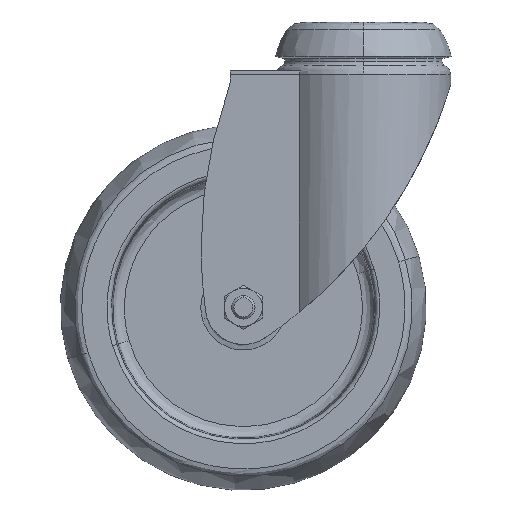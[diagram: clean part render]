
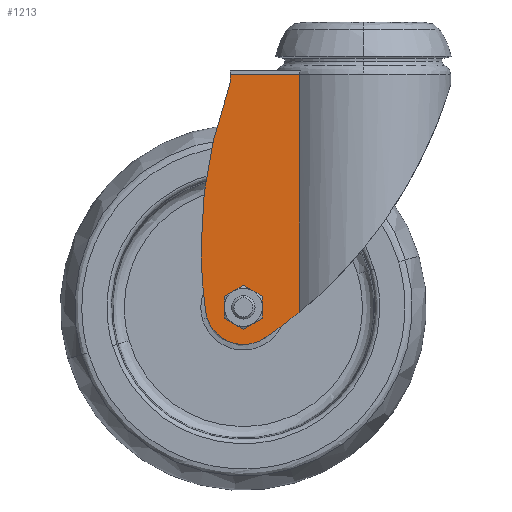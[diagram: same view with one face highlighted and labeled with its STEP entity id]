
A CAD part, top view. The second image highlights one B-rep face of the part: STEP entity #1213.
In plain terms, the highlighted planar face has unit normal (0, 0, 1).
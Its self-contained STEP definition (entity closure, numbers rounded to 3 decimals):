
#23 = LINE ( 'NONE', #3267, #7193 ) ;
#39 = DIRECTION ( 'NONE',  ( 0., 0., -1. ) ) ;
#132 = ORIENTED_EDGE ( 'NONE', *, *, #7077, .T. ) ;
#198 = AXIS2_PLACEMENT_3D ( 'NONE', #4670, #2241, #4129 ) ;
#213 = CIRCLE ( 'NONE', #4378, 160.514 ) ;
#235 = LINE ( 'NONE', #3393, #4162 ) ;
#315 = DIRECTION ( 'NONE',  ( -1., 0., 0. ) ) ;
#316 = AXIS2_PLACEMENT_3D ( 'NONE', #5965, #7727, #2627 ) ;
#347 = DIRECTION ( 'NONE',  ( 1., 0., 0. ) ) ;
#388 = ORIENTED_EDGE ( 'NONE', *, *, #8002, .T. ) ;
#432 = CARTESIAN_POINT ( 'NONE',  ( -34.714, 34.225, 25.055 ) ) ;
#492 = CIRCLE ( 'NONE', #2907, 6.5 ) ;
#646 = AXIS2_PLACEMENT_3D ( 'NONE', #5057, #2593, #5100 ) ;
#660 = CIRCLE ( 'NONE', #1466, 6.5 ) ;
#810 = AXIS2_PLACEMENT_3D ( 'NONE', #5782, #39, #2608 ) ;
#904 = DIRECTION ( 'NONE',  ( 0., -1., 0. ) ) ;
#1097 = CARTESIAN_POINT ( 'NONE',  ( -44.644, -24.523, 25.055 ) ) ;
#1111 = CARTESIAN_POINT ( 'NONE',  ( -30.214, -45.275, 25.055 ) ) ;
#1132 = CARTESIAN_POINT ( 'NONE',  ( -30.214, -45.275, 25.055 ) ) ;
#1213 = ADVANCED_FACE ( 'NONE', ( #5543, #8110 ), #2377, .T. ) ;
#1235 = ORIENTED_EDGE ( 'NONE', *, *, #7171, .T. ) ;
#1321 = ORIENTED_EDGE ( 'NONE', *, *, #7373, .T. ) ;
#1360 = ORIENTED_EDGE ( 'NONE', *, *, #2386, .T. ) ;
#1434 = DIRECTION ( 'NONE',  ( 0., 0., -1. ) ) ;
#1444 = CARTESIAN_POINT ( 'NONE',  ( -112.467, 76.793, 25.055 ) ) ;
#1466 = AXIS2_PLACEMENT_3D ( 'NONE', #2789, #6090, #347 ) ;
#1525 = CIRCLE ( 'NONE', #316, 6.5 ) ;
#1571 = VERTEX_POINT ( 'NONE', #5478 ) ;
#1608 = ORIENTED_EDGE ( 'NONE', *, *, #8293, .T. ) ;
#1672 = CARTESIAN_POINT ( 'NONE',  ( -43.088, -46.784, 25.055 ) ) ;
#1885 = DIRECTION ( 'NONE',  ( 0., 0., -1. ) ) ;
#1924 = DIRECTION ( 'NONE',  ( 0., 0., 1. ) ) ;
#1925 = DIRECTION ( 'NONE',  ( -1., 0., 0. ) ) ;
#2126 = CIRCLE ( 'NONE', #646, 159.993 ) ;
#2241 = DIRECTION ( 'NONE',  ( 0., 0., -1. ) ) ;
#2377 = PLANE ( 'NONE',  #3948 ) ;
#2386 = EDGE_CURVE ( 'NONE', #4165, #4962, #3273, .T. ) ;
#2450 = EDGE_CURVE ( 'NONE', #3416, #8020, #1525, .T. ) ;
#2466 = LINE ( 'NONE', #3805, #6660 ) ;
#2541 = CIRCLE ( 'NONE', #3615, 159.946 ) ;
#2591 = VERTEX_POINT ( 'NONE', #432 ) ;
#2593 = DIRECTION ( 'NONE',  ( 0., 0., 1. ) ) ;
#2603 = ORIENTED_EDGE ( 'NONE', *, *, #7571, .F. ) ;
#2608 = DIRECTION ( 'NONE',  ( 1., 0., 0. ) ) ;
#2627 = DIRECTION ( 'NONE',  ( 0., -1., 0. ) ) ;
#2660 = VERTEX_POINT ( 'NONE', #3545 ) ;
#2789 = CARTESIAN_POINT ( 'NONE',  ( -30.214, -45.275, 25.055 ) ) ;
#2892 = EDGE_CURVE ( 'NONE', #6187, #3416, #6707, .T. ) ;
#2907 = AXIS2_PLACEMENT_3D ( 'NONE', #1132, #3577, #6835 ) ;
#3023 = ORIENTED_EDGE ( 'NONE', *, *, #2892, .T. ) ;
#3034 = CIRCLE ( 'NONE', #198, 6.5 ) ;
#3058 = DIRECTION ( 'NONE',  ( 0., 0., 1. ) ) ;
#3084 = VERTEX_POINT ( 'NONE', #5893 ) ;
#3184 = DIRECTION ( 'NONE',  ( 0., 0., 1. ) ) ;
#3267 = CARTESIAN_POINT ( 'NONE',  ( -11.111, -107.775, 25.055 ) ) ;
#3273 = CIRCLE ( 'NONE', #4736, 13. ) ;
#3393 = CARTESIAN_POINT ( 'NONE',  ( -34.714, 39.225, 25.055 ) ) ;
#3399 = EDGE_CURVE ( 'NONE', #2591, #4924, #235, .T. ) ;
#3416 = VERTEX_POINT ( 'NONE', #7188 ) ;
#3545 = CARTESIAN_POINT ( 'NONE',  ( -11.111, -46.939, 25.055 ) ) ;
#3577 = DIRECTION ( 'NONE',  ( 0., 0., -1. ) ) ;
#3615 = AXIS2_PLACEMENT_3D ( 'NONE', #1444, #1924, #6351 ) ;
#3624 = VERTEX_POINT ( 'NONE', #5074 ) ;
#3678 = DIRECTION ( 'NONE',  ( 1., 0., 0. ) ) ;
#3708 = CIRCLE ( 'NONE', #6646, 159.993 ) ;
#3805 = CARTESIAN_POINT ( 'NONE',  ( 10.786, 34.225, 25.055 ) ) ;
#3876 = ORIENTED_EDGE ( 'NONE', *, *, #2450, .T. ) ;
#3948 = AXIS2_PLACEMENT_3D ( 'NONE', #4348, #4926, #3678 ) ;
#3951 = CIRCLE ( 'NONE', #6362, 6.5 ) ;
#4129 = DIRECTION ( 'NONE',  ( 1., 0., 0. ) ) ;
#4162 = VECTOR ( 'NONE', #904, 1000. ) ;
#4165 = VERTEX_POINT ( 'NONE', #1672 ) ;
#4199 = ORIENTED_EDGE ( 'NONE', *, *, #3399, .T. ) ;
#4348 = CARTESIAN_POINT ( 'NONE',  ( -11.111, -107.775, 25.055 ) ) ;
#4358 = EDGE_CURVE ( 'NONE', #2591, #8265, #2466, .T. ) ;
#4378 = AXIS2_PLACEMENT_3D ( 'NONE', #7796, #1434, #5399 ) ;
#4670 = CARTESIAN_POINT ( 'NONE',  ( -30.214, -45.275, 25.055 ) ) ;
#4677 = EDGE_LOOP ( 'NONE', ( #5081, #5833, #4199, #132, #388, #6167, #1360, #1235, #2603 ) ) ;
#4736 = AXIS2_PLACEMENT_3D ( 'NONE', #7646, #3058, #1925 ) ;
#4924 = VERTEX_POINT ( 'NONE', #7537 ) ;
#4926 = DIRECTION ( 'NONE',  ( 0., 0., 1. ) ) ;
#4962 = VERTEX_POINT ( 'NONE', #6868 ) ;
#5057 = CARTESIAN_POINT ( 'NONE',  ( 115.349, -24.523, 25.055 ) ) ;
#5074 = CARTESIAN_POINT ( 'NONE',  ( -23.714, -45.275, 25.055 ) ) ;
#5081 = ORIENTED_EDGE ( 'NONE', *, *, #5166, .F. ) ;
#5100 = DIRECTION ( 'NONE',  ( -1., 0., 0. ) ) ;
#5166 = EDGE_CURVE ( 'NONE', #8265, #2660, #23, .T. ) ;
#5246 = CARTESIAN_POINT ( 'NONE',  ( -26.964, -39.646, 25.055 ) ) ;
#5399 = DIRECTION ( 'NONE',  ( -1., 0., 0. ) ) ;
#5424 = CARTESIAN_POINT ( 'NONE',  ( -44.707, 32.724, 25.055 ) ) ;
#5478 = CARTESIAN_POINT ( 'NONE',  ( -13.983, -49.237, 25.055 ) ) ;
#5543 = FACE_OUTER_BOUND ( 'NONE', #4677, .T. ) ;
#5732 = CIRCLE ( 'NONE', #7337, 9.993 ) ;
#5737 = CARTESIAN_POINT ( 'NONE',  ( -26.964, -50.905, 25.055 ) ) ;
#5782 = CARTESIAN_POINT ( 'NONE',  ( -30.214, -45.275, 25.055 ) ) ;
#5833 = ORIENTED_EDGE ( 'NONE', *, *, #4358, .F. ) ;
#5893 = CARTESIAN_POINT ( 'NONE',  ( -35.298, 29.357, 25.055 ) ) ;
#5965 = CARTESIAN_POINT ( 'NONE',  ( -30.214, -45.275, 25.055 ) ) ;
#6021 = ORIENTED_EDGE ( 'NONE', *, *, #7728, .T. ) ;
#6023 = DIRECTION ( 'NONE',  ( 0., 0., -1. ) ) ;
#6090 = DIRECTION ( 'NONE',  ( 0., 0., -1. ) ) ;
#6167 = ORIENTED_EDGE ( 'NONE', *, *, #6205, .T. ) ;
#6187 = VERTEX_POINT ( 'NONE', #8038 ) ;
#6205 = EDGE_CURVE ( 'NONE', #7390, #4165, #2126, .T. ) ;
#6271 = CARTESIAN_POINT ( 'NONE',  ( -33.464, -39.646, 25.055 ) ) ;
#6351 = DIRECTION ( 'NONE',  ( -1., 0., 0. ) ) ;
#6362 = AXIS2_PLACEMENT_3D ( 'NONE', #1111, #1885, #7648 ) ;
#6646 = AXIS2_PLACEMENT_3D ( 'NONE', #7481, #3184, #6856 ) ;
#6660 = VECTOR ( 'NONE', #8198, 1000. ) ;
#6707 = CIRCLE ( 'NONE', #810, 6.5 ) ;
#6835 = DIRECTION ( 'NONE',  ( 0., -1., 0. ) ) ;
#6856 = DIRECTION ( 'NONE',  ( -1., 0., 0. ) ) ;
#6868 = CARTESIAN_POINT ( 'NONE',  ( -22.938, -55.748, 25.055 ) ) ;
#6900 = ORIENTED_EDGE ( 'NONE', *, *, #8097, .T. ) ;
#7077 = EDGE_CURVE ( 'NONE', #4924, #3084, #5732, .T. ) ;
#7162 = VERTEX_POINT ( 'NONE', #5246 ) ;
#7171 = EDGE_CURVE ( 'NONE', #4962, #1571, #2541, .T. ) ;
#7188 = CARTESIAN_POINT ( 'NONE',  ( -36.714, -45.275, 25.055 ) ) ;
#7193 = VECTOR ( 'NONE', #7733, 1000. ) ;
#7337 = AXIS2_PLACEMENT_3D ( 'NONE', #5424, #6023, #315 ) ;
#7373 = EDGE_CURVE ( 'NONE', #8020, #7162, #660, .T. ) ;
#7383 = CARTESIAN_POINT ( 'NONE',  ( -11.111, 34.225, 25.055 ) ) ;
#7390 = VERTEX_POINT ( 'NONE', #1097 ) ;
#7481 = CARTESIAN_POINT ( 'NONE',  ( 115.349, -24.523, 25.055 ) ) ;
#7537 = CARTESIAN_POINT ( 'NONE',  ( -34.714, 32.725, 25.055 ) ) ;
#7571 = EDGE_CURVE ( 'NONE', #2660, #1571, #213, .T. ) ;
#7646 = CARTESIAN_POINT ( 'NONE',  ( -30.214, -44.975, 25.055 ) ) ;
#7648 = DIRECTION ( 'NONE',  ( 1., 0., 0. ) ) ;
#7727 = DIRECTION ( 'NONE',  ( 0., 0., -1. ) ) ;
#7728 = EDGE_CURVE ( 'NONE', #7162, #3624, #492, .T. ) ;
#7733 = DIRECTION ( 'NONE',  ( 0., -1., 0. ) ) ;
#7796 = CARTESIAN_POINT ( 'NONE',  ( -112.822, 77.237, 25.055 ) ) ;
#7936 = VERTEX_POINT ( 'NONE', #5737 ) ;
#8002 = EDGE_CURVE ( 'NONE', #3084, #7390, #3708, .T. ) ;
#8020 = VERTEX_POINT ( 'NONE', #6271 ) ;
#8038 = CARTESIAN_POINT ( 'NONE',  ( -33.464, -50.905, 25.055 ) ) ;
#8097 = EDGE_CURVE ( 'NONE', #3624, #7936, #3951, .T. ) ;
#8110 = FACE_BOUND ( 'NONE', #8291, .T. ) ;
#8198 = DIRECTION ( 'NONE',  ( 1., 0., 0. ) ) ;
#8265 = VERTEX_POINT ( 'NONE', #7383 ) ;
#8291 = EDGE_LOOP ( 'NONE', ( #1608, #3023, #3876, #1321, #6021, #6900 ) ) ;
#8293 = EDGE_CURVE ( 'NONE', #7936, #6187, #3034, .T. ) ;
